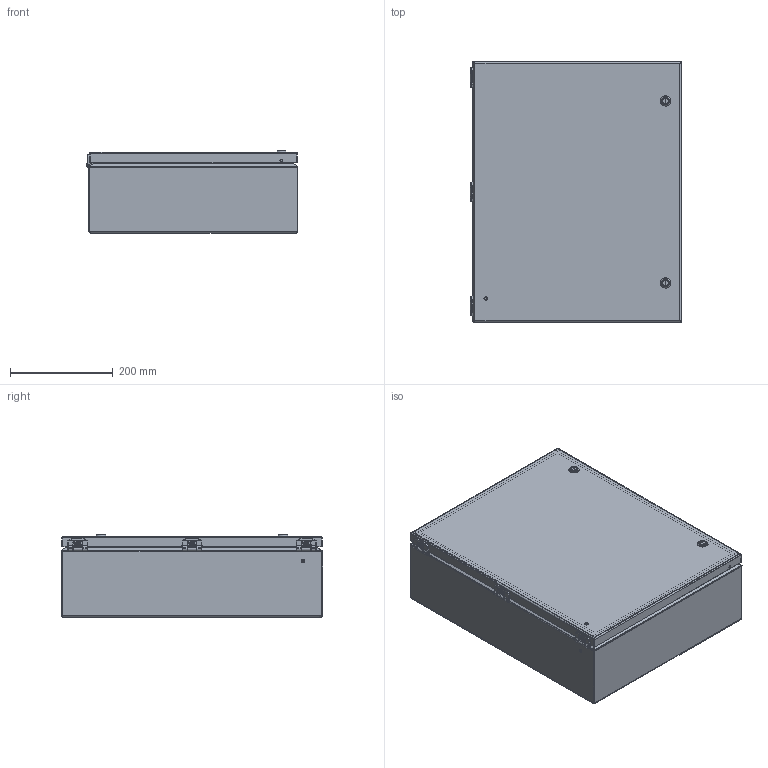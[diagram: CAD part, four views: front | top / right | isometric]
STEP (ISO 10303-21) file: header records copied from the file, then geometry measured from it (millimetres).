
FILE_DESCRIPTION((''),'2;1');
FILE_NAME('MODEL-058_ASM','2025-05-15T13:31:09',('johnh'),('SAGINAW CONTROL & ENGINEERING'),'CREO PARAMETRIC BY PTC INC, 2021284','CREO PARAMETRIC BY PTC INC, 2021284','');
FILE_SCHEMA(('AUTOMOTIVE_DESIGN { 1 0 10303 214 1 1 1 1 }'));
Length unit declared in the file: inch
Products named in the file (25): MODEL-058-BDY; MODEL-058-DR; 112643-BOX-LEAF; 112643-BOX-LEAF-STUD; 112643-BOX_ASM; 112643-DOOR-LEAF; 112643-DOOR-LEAF-STUD; 112643-DOOR_ASM; 112643-PIN; 112643_ASM; 113152; 100063; 112987_SHAFT; 112987_INSERT; 112984; 112987_SCREW; 112987_NUT; 112987_ASM; 100009; MODEL-058-GSKT; 120704; CH-ELJ_SUBPANEL; 102479; CH-ELJ_SUBPANEL-SUBASSEMBLY_ASM; MODEL-058_ASM
Assembly tree (47 placements, depth 4):
  MODEL-058_ASM
    MODEL-058-BDY
    MODEL-058-DR
    112643_ASM  x3
      112643-BOX_ASM
        112643-BOX-LEAF
        112643-BOX-LEAF-STUD
      112643-DOOR_ASM
        112643-DOOR-LEAF
        112643-DOOR-LEAF-STUD
      112643-PIN
    113152  x6
    100063  x2
    112987_ASM  x2
      112987_SHAFT
      112987_INSERT
      112984
      112987_SCREW
      112987_NUT
    100009  x8
    MODEL-058-GSKT
    120704
    CH-ELJ_SUBPANEL-SUBASSEMBLY_ASM
      CH-ELJ_SUBPANEL
      102479  x8
Bounding box: 412 x 508 x 159.91 mm (x, y, z)
Volume: 1553579.6 mm3; surface area: 1902834.8 mm2
Topology: 55 solids, 58 shells, 4501 faces, 11480 edges, 7006 vertices
Faces by surface type: plane 1538, cylinder 1284, bspline 1256, cone 197, torus 186, sphere 40
Entity records: 103044 total; most frequent: CARTESIAN_POINT 54631, ORIENTED_EDGE 7206, DIRECTION 6228, PRESENTATION_STYLE_ASSIGNMENT 3772, STYLED_ITEM 3772, EDGE_CURVE 3603, CURVE_STYLE 3513, AXIS2_PLACEMENT_3D 2312
